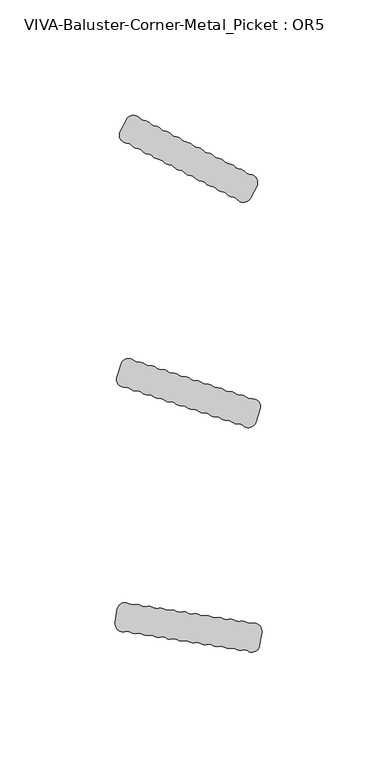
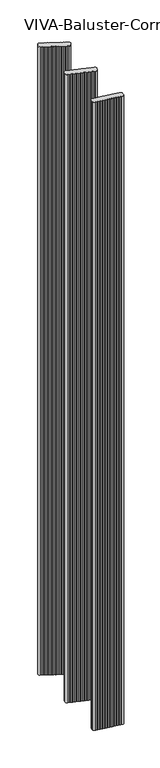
"""IFC4 building model written with IfcOpenShell, lengths in millimetres: railing geometry, VIVA-Baluster-Corner-Metal_Picket : OR5."""

from ifc_helpers import new_model, si_unit, point, frame, frame_2d, origin, place, context, project, spatial, polyline, circle_curve, trimmed, segment, composite_curve, outline, extrude, source, transform, mapped, element, save


def viva_baluster_corner_metal_picket_or5_cb283085(model_context):
    return source(origin(), model_context, "Body", "SweptSolid", [
        extrude(outline(composite_curve([segment(trimmed(circle_curve(frame_2d((48.8606721, 136.3429354)), 3.4374084), [point((50.6303843, 139.2897804))], [point((48.088201, 139.6924227))], True, "CARTESIAN"), True, "CONTINUOUS"), segment(trimmed(circle_curve(frame_2d((47.3157299, 143.0419099)), 3.4374084), [point((48.088201, 139.6924227))], [point((45.5460177, 140.0950649))], False, "CARTESIAN"), True, "CONTINUOUS"), segment(trimmed(circle_curve(frame_2d((43.7763055, 137.1482199)), 3.4374084), [point((45.5460177, 140.0950649))], [point((43.0038343, 140.4977072))], True, "CARTESIAN"), True, "CONTINUOUS"), segment(trimmed(circle_curve(frame_2d((42.2313632, 143.8471945)), 3.4374084), [point((43.0038343, 140.4977072))], [point((40.461651, 140.9003495))], False, "CARTESIAN"), True, "CONTINUOUS"), segment(trimmed(circle_curve(frame_2d((38.6919388, 137.9535045)), 3.4374084), [point((40.461651, 140.9003495))], [point((37.9194677, 141.3029918))], True, "CARTESIAN"), True, "CONTINUOUS"), segment(trimmed(circle_curve(frame_2d((37.1469966, 144.6524791)), 3.4374084), [point((37.9194677, 141.3029918))], [point((35.3772844, 141.7056341))], False, "CARTESIAN"), True, "CONTINUOUS"), segment(trimmed(circle_curve(frame_2d((33.6075722, 138.7587891)), 3.4374084), [point((35.3772844, 141.7056341))], [point((32.835101, 142.1082764))], True, "CARTESIAN"), True, "CONTINUOUS"), segment(trimmed(circle_curve(frame_2d((32.0626299, 145.4577636)), 3.4374084), [point((32.835101, 142.1082764))], [point((30.2929177, 142.5109186))], False, "CARTESIAN"), True, "CONTINUOUS"), segment(trimmed(circle_curve(frame_2d((28.5232055, 139.5640736)), 3.4374084), [point((30.2929177, 142.5109186))], [point((27.7507344, 142.9135609))], True, "CARTESIAN"), True, "CONTINUOUS"), segment(trimmed(circle_curve(frame_2d((26.9782633, 146.2630482)), 3.4374084), [point((27.7507344, 142.9135609))], [point((25.2085511, 143.3162032))], False, "CARTESIAN"), True, "CONTINUOUS"), segment(trimmed(circle_curve(frame_2d((23.4388389, 140.3693582)), 3.4374084), [point((25.2085511, 143.3162032))], [point((22.6663677, 143.7188455))], True, "CARTESIAN"), True, "CONTINUOUS"), segment(trimmed(circle_curve(frame_2d((21.8938966, 147.0683328)), 3.4374084), [point((22.6663677, 143.7188455))], [point((20.1241844, 144.1214878))], False, "CARTESIAN"), True, "CONTINUOUS"), segment(trimmed(circle_curve(frame_2d((18.3544722, 141.1746428)), 3.4374084), [point((20.1241844, 144.1214878))], [point((17.5820011, 144.5241301))], True, "CARTESIAN"), True, "CONTINUOUS"), segment(trimmed(circle_curve(frame_2d((16.80953, 147.8736173)), 3.4374084), [point((17.5820011, 144.5241301))], [point((15.0398178, 144.9267723))], False, "CARTESIAN"), True, "CONTINUOUS"), segment(trimmed(circle_curve(frame_2d((13.2701056, 141.9799273)), 3.4374084), [point((15.0398178, 144.9267723))], [point((12.4976344, 145.3294146))], True, "CARTESIAN"), True, "CONTINUOUS"), segment(trimmed(circle_curve(frame_2d((11.7251633, 148.6789019)), 3.4374084), [point((12.4976344, 145.3294146))], [point((9.9554511, 145.7320569))], False, "CARTESIAN"), True, "CONTINUOUS"), segment(trimmed(circle_curve(frame_2d((8.1857389, 142.7852119)), 3.4374084), [point((9.9554511, 145.7320569))], [point((7.4132678, 146.1346992))], True, "CARTESIAN"), True, "CONTINUOUS"), segment(trimmed(circle_curve(frame_2d((6.6407967, 149.4841865)), 3.4374084), [point((7.4132678, 146.1346992))], [point((4.8710845, 146.5373415))], False, "CARTESIAN"), True, "CONTINUOUS"), segment(trimmed(circle_curve(frame_2d((3.1013723, 143.5904965)), 3.4374084), [point((4.8710845, 146.5373415))], [point((2.3289011, 146.9399838))], True, "CARTESIAN"), True, "CONTINUOUS"), segment(trimmed(circle_curve(frame_2d((1.55643, 150.289471)), 3.4374084), [point((2.3289011, 146.9399838))], [point((-0.2132822, 147.342626))], False, "CARTESIAN"), True, "CONTINUOUS"), segment(trimmed(circle_curve(frame_2d((-1.9829944, 144.395781)), 3.4374084), [point((-0.2132822, 147.342626))], [point((-2.7554655, 147.7452683))], True, "CARTESIAN"), True, "CONTINUOUS"), segment(trimmed(circle_curve(frame_2d((-3.5279366, 151.0947556)), 3.4374084), [point((-2.7554655, 147.7452683))], [point((-6.9230249, 151.6324848))], False, "CARTESIAN"), True, "CONTINUOUS"), segment(polyline([(-6.9230249, 151.6324848), (-6.0117655, 157.3859502)]), True, "CONTINUOUS"), segment(trimmed(circle_curve(frame_2d((-2.6166772, 156.8482211)), 3.4374084), [point((-6.0117655, 157.3859502))], [point((-0.846965, 159.7950661))], False, "CARTESIAN"), True, "CONTINUOUS"), segment(trimmed(circle_curve(frame_2d((0.9227472, 162.7419111)), 3.4374084), [point((-0.846965, 159.7950661))], [point((1.6952183, 159.3924238))], True, "CARTESIAN"), True, "CONTINUOUS"), segment(trimmed(circle_curve(frame_2d((2.4676894, 156.0429365)), 3.4374084), [point((1.6952183, 159.3924238))], [point((4.2374016, 158.9897815))], False, "CARTESIAN"), True, "CONTINUOUS"), segment(trimmed(circle_curve(frame_2d((6.0071138, 161.9366265)), 3.4374084), [point((4.2374016, 158.9897815))], [point((6.7795849, 158.5871392))], True, "CARTESIAN"), True, "CONTINUOUS"), segment(trimmed(circle_curve(frame_2d((7.5520561, 155.2376519)), 3.4374084), [point((6.7795849, 158.5871392))], [point((9.3217683, 158.1844969))], False, "CARTESIAN"), True, "CONTINUOUS"), segment(trimmed(circle_curve(frame_2d((11.0914805, 161.131342)), 3.4374084), [point((9.3217683, 158.1844969))], [point((11.8639516, 157.7818547))], True, "CARTESIAN"), True, "CONTINUOUS"), segment(trimmed(circle_curve(frame_2d((12.6364227, 154.4323674)), 3.4374084), [point((11.8639516, 157.7818547))], [point((14.4061349, 157.3792124))], False, "CARTESIAN"), True, "CONTINUOUS"), segment(trimmed(circle_curve(frame_2d((16.1758471, 160.3260574)), 3.4374084), [point((14.4061349, 157.3792124))], [point((16.9483182, 156.9765701))], True, "CARTESIAN"), True, "CONTINUOUS"), segment(trimmed(circle_curve(frame_2d((17.7207894, 153.6270828)), 3.4374084), [point((16.9483182, 156.9765701))], [point((19.4905016, 156.5739278))], False, "CARTESIAN"), True, "CONTINUOUS"), segment(trimmed(circle_curve(frame_2d((21.2602138, 159.5207728)), 3.4374084), [point((19.4905016, 156.5739278))], [point((22.0326849, 156.1712855))], True, "CARTESIAN"), True, "CONTINUOUS"), segment(trimmed(circle_curve(frame_2d((22.805156, 152.8217982)), 3.4374084), [point((22.0326849, 156.1712855))], [point((24.5748682, 155.7686432))], False, "CARTESIAN"), True, "CONTINUOUS"), segment(trimmed(circle_curve(frame_2d((26.3445804, 158.7154883)), 3.4374084), [point((24.5748682, 155.7686432))], [point((27.1170515, 155.366001))], True, "CARTESIAN"), True, "CONTINUOUS"), segment(trimmed(circle_curve(frame_2d((27.8895227, 152.0165137)), 3.4374084), [point((27.1170515, 155.366001))], [point((29.6592349, 154.9633587))], False, "CARTESIAN"), True, "CONTINUOUS"), segment(trimmed(circle_curve(frame_2d((31.4289471, 157.9102037)), 3.4374084), [point((29.6592349, 154.9633587))], [point((32.2014182, 154.5607164))], True, "CARTESIAN"), True, "CONTINUOUS"), segment(trimmed(circle_curve(frame_2d((32.9738893, 151.2112291)), 3.4374084), [point((32.2014182, 154.5607164))], [point((34.7436015, 154.1580741))], False, "CARTESIAN"), True, "CONTINUOUS"), segment(trimmed(circle_curve(frame_2d((36.5133137, 157.1049191)), 3.4374084), [point((34.7436015, 154.1580741))], [point((37.2857848, 153.7554318))], True, "CARTESIAN"), True, "CONTINUOUS"), segment(trimmed(circle_curve(frame_2d((38.058256, 150.4059445)), 3.4374084), [point((37.2857848, 153.7554318))], [point((39.8279682, 153.3527895))], False, "CARTESIAN"), True, "CONTINUOUS"), segment(trimmed(circle_curve(frame_2d((41.5976804, 156.2996346)), 3.4374084), [point((39.8279682, 153.3527895))], [point((42.3701515, 152.9501473))], True, "CARTESIAN"), True, "CONTINUOUS"), segment(trimmed(circle_curve(frame_2d((43.1426226, 149.60066)), 3.4374084), [point((42.3701515, 152.9501473))], [point((44.9123348, 152.547505))], False, "CARTESIAN"), True, "CONTINUOUS"), segment(trimmed(circle_curve(frame_2d((46.682047, 155.49435)), 3.4374084), [point((44.9123348, 152.547505))], [point((47.4545181, 152.1448627))], True, "CARTESIAN"), True, "CONTINUOUS"), segment(trimmed(circle_curve(frame_2d((48.2269893, 148.7953754)), 3.4374084), [point((47.4545181, 152.1448627))], [point((49.9967015, 151.7422204))], False, "CARTESIAN"), True, "CONTINUOUS"), segment(trimmed(circle_curve(frame_2d((51.7664137, 154.6890654)), 3.4374084), [point((49.9967015, 151.7422204))], [point((52.5388848, 151.3395781))], True, "CARTESIAN"), True, "CONTINUOUS"), segment(trimmed(circle_curve(frame_2d((53.3113559, 147.9900908)), 3.4374084), [point((52.5388848, 151.3395781))], [point((56.7064442, 147.4523617))], False, "CARTESIAN"), True, "CONTINUOUS"), segment(polyline([(56.7064442, 147.4523617), (55.7951848, 141.6988962)]), True, "CONTINUOUS"), segment(trimmed(circle_curve(frame_2d((52.4000965, 142.2366254)), 3.4374084), [point((55.7951848, 141.6988962))], [point((50.6303843, 139.2897804))], False, "CARTESIAN"), True, "CONTINUOUS")], self_intersect=False)), frame((0.0, 0.0, -245.8945017), z_axis=(0.0, 0.0, 1.0), x_axis=(1.0, 0.0, 0.0)), (0.0, 0.0, 1.0), 1465.0945017),
        extrude(outline(composite_curve([segment(trimmed(circle_curve(frame_2d((50.9185441, 239.6233121)), 3.4374084), [point((54.1877137, 238.5610945))], [point((48.7096318, 236.9895916))], False, "CARTESIAN"), True, "CONTINUOUS"), segment(trimmed(circle_curve(frame_2d((46.5007196, 234.3558712)), 3.4374084), [point((48.7096318, 236.9895916))], [point((46.2617341, 237.7849618))], True, "CARTESIAN"), True, "CONTINUOUS"), segment(trimmed(circle_curve(frame_2d((46.0227487, 241.2140525)), 3.4374084), [point((46.2617341, 237.7849618))], [point((43.8138364, 238.580332))], False, "CARTESIAN"), True, "CONTINUOUS"), segment(trimmed(circle_curve(frame_2d((41.6049242, 235.9466115)), 3.4374084), [point((43.8138364, 238.580332))], [point((41.3659387, 239.3757022))], True, "CARTESIAN"), True, "CONTINUOUS"), segment(trimmed(circle_curve(frame_2d((41.1269533, 242.8047928)), 3.4374084), [point((41.3659387, 239.3757022))], [point((38.918041, 240.1710723))], False, "CARTESIAN"), True, "CONTINUOUS"), segment(trimmed(circle_curve(frame_2d((36.7091288, 237.5373519)), 3.4374084), [point((38.918041, 240.1710723))], [point((36.4701433, 240.9664425))], True, "CARTESIAN"), True, "CONTINUOUS"), segment(trimmed(circle_curve(frame_2d((36.2311579, 244.3955332)), 3.4374084), [point((36.4701433, 240.9664425))], [point((34.0222456, 241.7618127))], False, "CARTESIAN"), True, "CONTINUOUS"), segment(trimmed(circle_curve(frame_2d((31.8133334, 239.1280922)), 3.4374084), [point((34.0222456, 241.7618127))], [point((31.5743479, 242.5571829))], True, "CARTESIAN"), True, "CONTINUOUS"), segment(trimmed(circle_curve(frame_2d((31.3353625, 245.9862735)), 3.4374084), [point((31.5743479, 242.5571829))], [point((29.1264502, 243.352553))], False, "CARTESIAN"), True, "CONTINUOUS"), segment(trimmed(circle_curve(frame_2d((26.917538, 240.7188326)), 3.4374084), [point((29.1264502, 243.352553))], [point((26.6785525, 244.1479232))], True, "CARTESIAN"), True, "CONTINUOUS"), segment(trimmed(circle_curve(frame_2d((26.4395671, 247.5770139)), 3.4374084), [point((26.6785525, 244.1479232))], [point((24.2306548, 244.9432934))], False, "CARTESIAN"), True, "CONTINUOUS"), segment(trimmed(circle_curve(frame_2d((22.0217426, 242.3095729)), 3.4374084), [point((24.2306548, 244.9432934))], [point((21.7827571, 245.7386636))], True, "CARTESIAN"), True, "CONTINUOUS"), segment(trimmed(circle_curve(frame_2d((21.5437717, 249.1677542)), 3.4374084), [point((21.7827571, 245.7386636))], [point((19.3348594, 246.5340337))], False, "CARTESIAN"), True, "CONTINUOUS"), segment(trimmed(circle_curve(frame_2d((17.1259472, 243.9003133)), 3.4374084), [point((19.3348594, 246.5340337))], [point((16.8869617, 247.3294039))], True, "CARTESIAN"), True, "CONTINUOUS"), segment(trimmed(circle_curve(frame_2d((16.6479763, 250.7584946)), 3.4374084), [point((16.8869617, 247.3294039))], [point((14.439064, 248.1247741))], False, "CARTESIAN"), True, "CONTINUOUS"), segment(trimmed(circle_curve(frame_2d((12.2301518, 245.4910536)), 3.4374084), [point((14.439064, 248.1247741))], [point((11.9911663, 248.9201443))], True, "CARTESIAN"), True, "CONTINUOUS"), segment(trimmed(circle_curve(frame_2d((11.7521809, 252.3492349)), 3.4374084), [point((11.9911663, 248.9201443))], [point((9.5432686, 249.7155145))], False, "CARTESIAN"), True, "CONTINUOUS"), segment(trimmed(circle_curve(frame_2d((7.3343564, 247.081794)), 3.4374084), [point((9.5432686, 249.7155145))], [point((7.0953709, 250.5108846))], True, "CARTESIAN"), True, "CONTINUOUS"), segment(trimmed(circle_curve(frame_2d((6.8563855, 253.9399753)), 3.4374084), [point((7.0953709, 250.5108846))], [point((4.6474732, 251.3062548))], False, "CARTESIAN"), True, "CONTINUOUS"), segment(trimmed(circle_curve(frame_2d((2.438561, 248.6725343)), 3.4374084), [point((4.6474732, 251.3062548))], [point((2.1995755, 252.101625))], True, "CARTESIAN"), True, "CONTINUOUS"), segment(trimmed(circle_curve(frame_2d((1.9605901, 255.5307156)), 3.4374084), [point((2.1995755, 252.101625))], [point((-0.2483222, 252.8969952))], False, "CARTESIAN"), True, "CONTINUOUS"), segment(trimmed(circle_curve(frame_2d((-2.4572344, 250.2632747)), 3.4374084), [point((-0.2483222, 252.8969952))], [point((-2.6962199, 253.6923653))], True, "CARTESIAN"), True, "CONTINUOUS"), segment(trimmed(circle_curve(frame_2d((-2.9352053, 257.121456)), 3.4374084), [point((-2.6962199, 253.6923653))], [point((-6.204375, 258.1836736))], False, "CARTESIAN"), True, "CONTINUOUS"), segment(polyline([(-6.204375, 258.1836736), (-4.4042945, 263.723752)]), True, "CONTINUOUS"), segment(trimmed(circle_curve(frame_2d((-1.1351248, 262.6615344)), 3.4374084), [point((-4.4042945, 263.723752))], [point((1.0737875, 265.2952548))], False, "CARTESIAN"), True, "CONTINUOUS"), segment(trimmed(circle_curve(frame_2d((3.2826997, 267.9289753)), 3.4374084), [point((1.0737875, 265.2952548))], [point((3.5216852, 264.4998847))], True, "CARTESIAN"), True, "CONTINUOUS"), segment(trimmed(circle_curve(frame_2d((3.7606706, 261.070794)), 3.4374084), [point((3.5216852, 264.4998847))], [point((5.9695829, 263.7045145))], False, "CARTESIAN"), True, "CONTINUOUS"), segment(trimmed(circle_curve(frame_2d((8.1784951, 266.338235)), 3.4374084), [point((5.9695829, 263.7045145))], [point((8.4174806, 262.9091443))], True, "CARTESIAN"), True, "CONTINUOUS"), segment(trimmed(circle_curve(frame_2d((8.656466, 259.4800537)), 3.4374084), [point((8.4174806, 262.9091443))], [point((10.8653783, 262.1137741))], False, "CARTESIAN"), True, "CONTINUOUS"), segment(trimmed(circle_curve(frame_2d((13.0742905, 264.7474946)), 3.4374084), [point((10.8653783, 262.1137741))], [point((13.313276, 261.318404))], True, "CARTESIAN"), True, "CONTINUOUS"), segment(trimmed(circle_curve(frame_2d((13.5522614, 257.8893133)), 3.4374084), [point((13.313276, 261.318404))], [point((15.7611737, 260.5230338))], False, "CARTESIAN"), True, "CONTINUOUS"), segment(trimmed(circle_curve(frame_2d((17.9700859, 263.1567543)), 3.4374084), [point((15.7611737, 260.5230338))], [point((18.2090714, 259.7276636))], True, "CARTESIAN"), True, "CONTINUOUS"), segment(trimmed(circle_curve(frame_2d((18.4480568, 256.298573)), 3.4374084), [point((18.2090714, 259.7276636))], [point((20.6569691, 258.9322934))], False, "CARTESIAN"), True, "CONTINUOUS"), segment(trimmed(circle_curve(frame_2d((22.8658813, 261.5660139)), 3.4374084), [point((20.6569691, 258.9322934))], [point((23.1048668, 258.1369232))], True, "CARTESIAN"), True, "CONTINUOUS"), segment(trimmed(circle_curve(frame_2d((23.3438522, 254.7078326)), 3.4374084), [point((23.1048668, 258.1369232))], [point((25.5527645, 257.3415531))], False, "CARTESIAN"), True, "CONTINUOUS"), segment(trimmed(circle_curve(frame_2d((27.7616767, 259.9752735)), 3.4374084), [point((25.5527645, 257.3415531))], [point((28.0006622, 256.5461829))], True, "CARTESIAN"), True, "CONTINUOUS"), segment(trimmed(circle_curve(frame_2d((28.2396476, 253.1170922)), 3.4374084), [point((28.0006622, 256.5461829))], [point((30.4485599, 255.7508127))], False, "CARTESIAN"), True, "CONTINUOUS"), segment(trimmed(circle_curve(frame_2d((32.6574721, 258.3845332)), 3.4374084), [point((30.4485599, 255.7508127))], [point((32.8964576, 254.9554425))], True, "CARTESIAN"), True, "CONTINUOUS"), segment(trimmed(circle_curve(frame_2d((33.135443, 251.5263519)), 3.4374084), [point((32.8964576, 254.9554425))], [point((35.3443553, 254.1600724))], False, "CARTESIAN"), True, "CONTINUOUS"), segment(trimmed(circle_curve(frame_2d((37.5532675, 256.7937928)), 3.4374084), [point((35.3443553, 254.1600724))], [point((37.792253, 253.3647022))], True, "CARTESIAN"), True, "CONTINUOUS"), segment(trimmed(circle_curve(frame_2d((38.0312384, 249.9356115)), 3.4374084), [point((37.792253, 253.3647022))], [point((40.2401507, 252.569332))], False, "CARTESIAN"), True, "CONTINUOUS"), segment(trimmed(circle_curve(frame_2d((42.4490629, 255.2030525)), 3.4374084), [point((40.2401507, 252.569332))], [point((42.6880484, 251.7739618))], True, "CARTESIAN"), True, "CONTINUOUS"), segment(trimmed(circle_curve(frame_2d((42.9270338, 248.3448712)), 3.4374084), [point((42.6880484, 251.7739618))], [point((45.1359461, 250.9785917))], False, "CARTESIAN"), True, "CONTINUOUS"), segment(trimmed(circle_curve(frame_2d((47.3448583, 253.6123121)), 3.4374084), [point((45.1359461, 250.9785917))], [point((47.5838438, 250.1832215))], True, "CARTESIAN"), True, "CONTINUOUS"), segment(trimmed(circle_curve(frame_2d((47.8228292, 246.7541308)), 3.4374084), [point((47.5838438, 250.1832215))], [point((50.0317415, 249.3878513))], False, "CARTESIAN"), True, "CONTINUOUS"), segment(trimmed(circle_curve(frame_2d((52.2406537, 252.0215718)), 3.4374084), [point((50.0317415, 249.3878513))], [point((52.4796392, 248.5924811))], True, "CARTESIAN"), True, "CONTINUOUS"), segment(trimmed(circle_curve(frame_2d((52.7186246, 245.1633905)), 3.4374084), [point((52.4796392, 248.5924811))], [point((55.9877943, 244.1011728))], False, "CARTESIAN"), True, "CONTINUOUS"), segment(polyline([(55.9877943, 244.1011728), (54.1877137, 238.5610945)]), True, "CONTINUOUS")], self_intersect=False)), frame((0.0, 0.0, -245.8945017), z_axis=(0.0, 0.0, 1.0), x_axis=(1.0, 0.0, 0.0)), (0.0, 0.0, 1.0), 1465.0945017),
        extrude(outline(composite_curve([segment(trimmed(circle_curve(frame_2d((48.7961246, 337.2936376)), 3.4374084), [point((51.8588779, 335.7330868))], [point((46.2024031, 335.0378926))], False, "CARTESIAN"), True, "CONTINUOUS"), segment(trimmed(circle_curve(frame_2d((43.6086816, 332.7821476)), 3.4374084), [point((46.2024031, 335.0378926))], [point((43.9090663, 336.206406))], True, "CARTESIAN"), True, "CONTINUOUS"), segment(trimmed(circle_curve(frame_2d((44.2094511, 339.6306644)), 3.4374084), [point((43.9090663, 336.206406))], [point((41.6157296, 337.3749194))], False, "CARTESIAN"), True, "CONTINUOUS"), segment(trimmed(circle_curve(frame_2d((39.0220081, 335.1191744)), 3.4374084), [point((41.6157296, 337.3749194))], [point((39.3223929, 338.5434328))], True, "CARTESIAN"), True, "CONTINUOUS"), segment(trimmed(circle_curve(frame_2d((39.6227777, 341.9676912)), 3.4374084), [point((39.3223929, 338.5434328))], [point((37.0290562, 339.7119462))], False, "CARTESIAN"), True, "CONTINUOUS"), segment(trimmed(circle_curve(frame_2d((34.4353347, 337.4562012)), 3.4374084), [point((37.0290562, 339.7119462))], [point((34.7357195, 340.8804596))], True, "CARTESIAN"), True, "CONTINUOUS"), segment(trimmed(circle_curve(frame_2d((35.0361043, 344.3047181)), 3.4374084), [point((34.7357195, 340.8804596))], [point((32.4423828, 342.0489731))], False, "CARTESIAN"), True, "CONTINUOUS"), segment(trimmed(circle_curve(frame_2d((29.8486613, 339.7932281)), 3.4374084), [point((32.4423828, 342.0489731))], [point((30.1490461, 343.2174865))], True, "CARTESIAN"), True, "CONTINUOUS"), segment(trimmed(circle_curve(frame_2d((30.4494309, 346.6417449)), 3.4374084), [point((30.1490461, 343.2174865))], [point((27.8557094, 344.3859999))], False, "CARTESIAN"), True, "CONTINUOUS"), segment(trimmed(circle_curve(frame_2d((25.2619879, 342.1302549)), 3.4374084), [point((27.8557094, 344.3859999))], [point((25.5623727, 345.5545133))], True, "CARTESIAN"), True, "CONTINUOUS"), segment(trimmed(circle_curve(frame_2d((25.8627575, 348.9787717)), 3.4374084), [point((25.5623727, 345.5545133))], [point((23.269036, 346.7230267))], False, "CARTESIAN"), True, "CONTINUOUS"), segment(trimmed(circle_curve(frame_2d((20.6753145, 344.4672817)), 3.4374084), [point((23.269036, 346.7230267))], [point((20.9756993, 347.8915401))], True, "CARTESIAN"), True, "CONTINUOUS"), segment(trimmed(circle_curve(frame_2d((21.276084, 351.3157986)), 3.4374084), [point((20.9756993, 347.8915401))], [point((18.6823625, 349.0600536))], False, "CARTESIAN"), True, "CONTINUOUS"), segment(trimmed(circle_curve(frame_2d((16.088641, 346.8043086)), 3.4374084), [point((18.6823625, 349.0600536))], [point((16.3890258, 350.228567))], True, "CARTESIAN"), True, "CONTINUOUS"), segment(trimmed(circle_curve(frame_2d((16.6894106, 353.6528254)), 3.4374084), [point((16.3890258, 350.228567))], [point((14.0956891, 351.3970804))], False, "CARTESIAN"), True, "CONTINUOUS"), segment(trimmed(circle_curve(frame_2d((11.5019676, 349.1413354)), 3.4374084), [point((14.0956891, 351.3970804))], [point((11.8023524, 352.5655938))], True, "CARTESIAN"), True, "CONTINUOUS"), segment(trimmed(circle_curve(frame_2d((12.1027372, 355.9898522)), 3.4374084), [point((11.8023524, 352.5655938))], [point((9.5090157, 353.7341072))], False, "CARTESIAN"), True, "CONTINUOUS"), segment(trimmed(circle_curve(frame_2d((6.9152942, 351.4783622)), 3.4374084), [point((9.5090157, 353.7341072))], [point((7.215679, 354.9026207))], True, "CARTESIAN"), True, "CONTINUOUS"), segment(trimmed(circle_curve(frame_2d((7.5160638, 358.3268791)), 3.4374084), [point((7.215679, 354.9026207))], [point((4.9223423, 356.0711341))], False, "CARTESIAN"), True, "CONTINUOUS"), segment(trimmed(circle_curve(frame_2d((2.3286208, 353.8153891)), 3.4374084), [point((4.9223423, 356.0711341))], [point((2.6290056, 357.2396475))], True, "CARTESIAN"), True, "CONTINUOUS"), segment(trimmed(circle_curve(frame_2d((2.9293904, 360.6639059)), 3.4374084), [point((2.6290056, 357.2396475))], [point((0.3356689, 358.4081609))], False, "CARTESIAN"), True, "CONTINUOUS"), segment(trimmed(circle_curve(frame_2d((-2.2580526, 356.1524159)), 3.4374084), [point((0.3356689, 358.4081609))], [point((-1.9576678, 359.5766743))], True, "CARTESIAN"), True, "CONTINUOUS"), segment(trimmed(circle_curve(frame_2d((-1.657283, 363.0009327)), 3.4374084), [point((-1.9576678, 359.5766743))], [point((-4.7200364, 364.5614835))], False, "CARTESIAN"), True, "CONTINUOUS"), segment(polyline([(-4.7200364, 364.5614835), (-2.0754586, 369.7517597)]), True, "CONTINUOUS"), segment(trimmed(circle_curve(frame_2d((0.9872948, 368.1912089)), 3.4374084), [point((-2.0754586, 369.7517597))], [point((3.5810163, 370.4469539))], False, "CARTESIAN"), True, "CONTINUOUS"), segment(trimmed(circle_curve(frame_2d((6.1747378, 372.7026989)), 3.4374084), [point((3.5810163, 370.4469539))], [point((5.874353, 369.2784405))], True, "CARTESIAN"), True, "CONTINUOUS"), segment(trimmed(circle_curve(frame_2d((5.5739682, 365.8541821)), 3.4374084), [point((5.874353, 369.2784405))], [point((8.1676897, 368.1099271))], False, "CARTESIAN"), True, "CONTINUOUS"), segment(trimmed(circle_curve(frame_2d((10.7614112, 370.3656721)), 3.4374084), [point((8.1676897, 368.1099271))], [point((10.4610264, 366.9414137))], True, "CARTESIAN"), True, "CONTINUOUS"), segment(trimmed(circle_curve(frame_2d((10.1606416, 363.5171552)), 3.4374084), [point((10.4610264, 366.9414137))], [point((12.7543631, 365.7729002))], False, "CARTESIAN"), True, "CONTINUOUS"), segment(trimmed(circle_curve(frame_2d((15.3480846, 368.0286452)), 3.4374084), [point((12.7543631, 365.7729002))], [point((15.0476998, 364.6043868))], True, "CARTESIAN"), True, "CONTINUOUS"), segment(trimmed(circle_curve(frame_2d((14.747315, 361.1801284)), 3.4374084), [point((15.0476998, 364.6043868))], [point((17.3410365, 363.4358734))], False, "CARTESIAN"), True, "CONTINUOUS"), segment(trimmed(circle_curve(frame_2d((19.934758, 365.6916184)), 3.4374084), [point((17.3410365, 363.4358734))], [point((19.6343732, 362.26736))], True, "CARTESIAN"), True, "CONTINUOUS"), segment(trimmed(circle_curve(frame_2d((19.3339884, 358.8431016)), 3.4374084), [point((19.6343732, 362.26736))], [point((21.9277099, 361.0988466))], False, "CARTESIAN"), True, "CONTINUOUS"), segment(trimmed(circle_curve(frame_2d((24.5214314, 363.3545916)), 3.4374084), [point((21.9277099, 361.0988466))], [point((24.2210466, 359.9303332))], True, "CARTESIAN"), True, "CONTINUOUS"), segment(trimmed(circle_curve(frame_2d((23.9206618, 356.5060747)), 3.4374084), [point((24.2210466, 359.9303332))], [point((26.5143833, 358.7618197))], False, "CARTESIAN"), True, "CONTINUOUS"), segment(trimmed(circle_curve(frame_2d((29.1081049, 361.0175647)), 3.4374084), [point((26.5143833, 358.7618197))], [point((28.8077201, 357.5933063))], True, "CARTESIAN"), True, "CONTINUOUS"), segment(trimmed(circle_curve(frame_2d((28.5073353, 354.1690479)), 3.4374084), [point((28.8077201, 357.5933063))], [point((31.1010568, 356.4247929))], False, "CARTESIAN"), True, "CONTINUOUS"), segment(trimmed(circle_curve(frame_2d((33.6947783, 358.6805379)), 3.4374084), [point((31.1010568, 356.4247929))], [point((33.3943935, 355.2562795))], True, "CARTESIAN"), True, "CONTINUOUS"), segment(trimmed(circle_curve(frame_2d((33.0940087, 351.8320211)), 3.4374084), [point((33.3943935, 355.2562795))], [point((35.6877302, 354.0877661))], False, "CARTESIAN"), True, "CONTINUOUS"), segment(trimmed(circle_curve(frame_2d((38.2814517, 356.3435111)), 3.4374084), [point((35.6877302, 354.0877661))], [point((37.9810669, 352.9192527))], True, "CARTESIAN"), True, "CONTINUOUS"), segment(trimmed(circle_curve(frame_2d((37.6806821, 349.4949942)), 3.4374084), [point((37.9810669, 352.9192527))], [point((40.2744036, 351.7507392))], False, "CARTESIAN"), True, "CONTINUOUS"), segment(trimmed(circle_curve(frame_2d((42.8681251, 354.0064842)), 3.4374084), [point((40.2744036, 351.7507392))], [point((42.5677403, 350.5822258))], True, "CARTESIAN"), True, "CONTINUOUS"), segment(trimmed(circle_curve(frame_2d((42.2673555, 347.1579674)), 3.4374084), [point((42.5677403, 350.5822258))], [point((44.861077, 349.4137124))], False, "CARTESIAN"), True, "CONTINUOUS"), segment(trimmed(circle_curve(frame_2d((47.4547985, 351.6694574)), 3.4374084), [point((44.861077, 349.4137124))], [point((47.1544137, 348.245199))], True, "CARTESIAN"), True, "CONTINUOUS"), segment(trimmed(circle_curve(frame_2d((46.8540289, 344.8209406)), 3.4374084), [point((47.1544137, 348.245199))], [point((49.4477504, 347.0766856))], False, "CARTESIAN"), True, "CONTINUOUS"), segment(trimmed(circle_curve(frame_2d((52.0414719, 349.3324306)), 3.4374084), [point((49.4477504, 347.0766856))], [point((51.7410872, 345.9081721))], True, "CARTESIAN"), True, "CONTINUOUS"), segment(trimmed(circle_curve(frame_2d((51.4407024, 342.4839137)), 3.4374084), [point((51.7410872, 345.9081721))], [point((54.5034557, 340.923363))], False, "CARTESIAN"), True, "CONTINUOUS"), segment(polyline([(54.5034557, 340.923363), (51.8588779, 335.7330868)]), True, "CONTINUOUS")], self_intersect=False)), frame((0.0, 0.0, -245.8945017), z_axis=(0.0, 0.0, 1.0), x_axis=(1.0, 0.0, 0.0)), (0.0, 0.0, 1.0), 1465.0945017),
    ])


if __name__ == "__main__":
    model = new_model("IFC4")
    model_context = context("Model", 3, world=origin())
    ifc_project = project(units=[si_unit("LENGTHUNIT", "METRE", prefix="MILLI")], contexts=[model_context])
    site = spatial("IfcSite", under=ifc_project)
    building = spatial("IfcBuilding", under=site)
    placement = place(None, origin())
    viva_baluster_corner_metal_picket_or5_shape = viva_baluster_corner_metal_picket_or5_cb283085(model_context)
    element("IfcRailing", 1, ObjectType="VIVA-Baluster-Corner-Metal_Picket : OR5", at=placement, inside=building, context=model_context, shape_type="MappedRepresentation", body=[
        mapped(viva_baluster_corner_metal_picket_or5_shape, transform((0.0, 0.0, 0.0), x_axis=(1.0, 0.0, 0.0), y_axis=(0.0, 1.0, 0.0), z_axis=(0.0, 0.0, 1.0))),
    ])
    save(model, "model.ifc")
